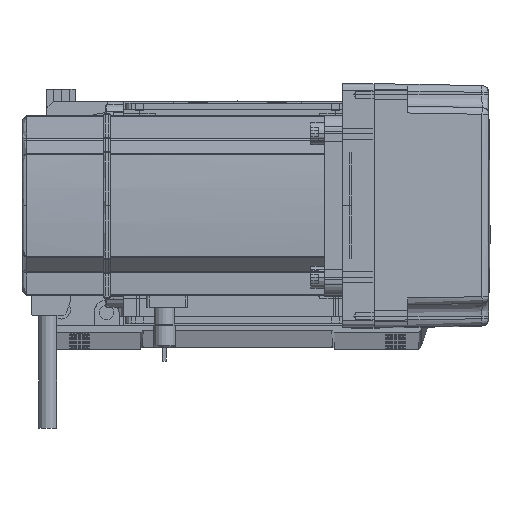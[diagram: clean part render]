
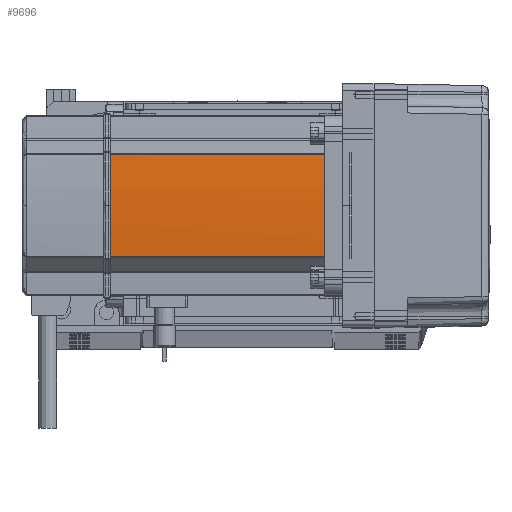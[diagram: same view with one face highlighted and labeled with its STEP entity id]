
A CAD part, top view. The second image highlights one B-rep face of the part: STEP entity #9696.
In plain terms, the highlighted cylindrical face has radius 270 mm (diameter 540 mm), a partial arc.
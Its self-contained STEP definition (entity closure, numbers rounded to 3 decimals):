
#672 = CARTESIAN_POINT ( 'NONE',  ( -39.042, 22.724, 134. ) ) ;
#1835 = CIRCLE ( 'NONE', #8783, 270. ) ;
#2182 = EDGE_CURVE ( 'NONE', #55314, #61873, #11278, .T. ) ;
#5373 = CARTESIAN_POINT ( 'NONE',  ( 230., 0., 39. ) ) ;
#6684 = CIRCLE ( 'NONE', #43707, 270. ) ;
#6867 = CYLINDRICAL_SURFACE ( 'NONE', #22849, 270. ) ;
#7472 = CARTESIAN_POINT ( 'NONE',  ( -39.042, -22.724, 0. ) ) ;
#8783 = AXIS2_PLACEMENT_3D ( 'NONE', #43379, #48844, #53864 ) ;
#9388 = DIRECTION ( 'NONE',  ( 0., 0., -1. ) ) ;
#9696 = ADVANCED_FACE ( 'NONE', ( #28921 ), #6867, .T. ) ;
#11278 = LINE ( 'NONE', #21088, #31686 ) ;
#11650 = CARTESIAN_POINT ( 'NONE',  ( -39.042, 22.724, 39. ) ) ;
#12151 = VECTOR ( 'NONE', #66968, 1000. ) ;
#12718 = ORIENTED_EDGE ( 'NONE', *, *, #38586, .F. ) ;
#18921 = EDGE_CURVE ( 'NONE', #27110, #64386, #50086, .T. ) ;
#19502 = CARTESIAN_POINT ( 'NONE',  ( -40., 0., 134. ) ) ;
#20966 = DIRECTION ( 'NONE',  ( 1., 0., 0. ) ) ;
#21088 = CARTESIAN_POINT ( 'NONE',  ( -39.042, 22.724, 0. ) ) ;
#22849 = AXIS2_PLACEMENT_3D ( 'NONE', #55076, #33406, #65590 ) ;
#25298 = ORIENTED_EDGE ( 'NONE', *, *, #66184, .T. ) ;
#27110 = VERTEX_POINT ( 'NONE', #54314 ) ;
#28921 = FACE_OUTER_BOUND ( 'NONE', #49376, .T. ) ;
#31686 = VECTOR ( 'NONE', #59162, 1000. ) ;
#33406 = DIRECTION ( 'NONE',  ( 0., 0., 1. ) ) ;
#36354 = ORIENTED_EDGE ( 'NONE', *, *, #54246, .T. ) ;
#38586 = EDGE_CURVE ( 'NONE', #65216, #61873, #6684, .T. ) ;
#40731 = CARTESIAN_POINT ( 'NONE',  ( -39.042, -22.724, 39. ) ) ;
#43379 = CARTESIAN_POINT ( 'NONE',  ( 230., 0., 134. ) ) ;
#43707 = AXIS2_PLACEMENT_3D ( 'NONE', #5373, #59127, #69855 ) ;
#44311 = AXIS2_PLACEMENT_3D ( 'NONE', #69320, #9388, #20966 ) ;
#48844 = DIRECTION ( 'NONE',  ( 0., 0., -1. ) ) ;
#49376 = EDGE_LOOP ( 'NONE', ( #65349, #25298, #69699, #12718, #36354 ) ) ;
#50086 = CIRCLE ( 'NONE', #44311, 270. ) ;
#53864 = DIRECTION ( 'NONE',  ( 1., 0., 0. ) ) ;
#54246 = EDGE_CURVE ( 'NONE', #65216, #27110, #66648, .T. ) ;
#54314 = CARTESIAN_POINT ( 'NONE',  ( -39.042, -22.724, 134. ) ) ;
#55076 = CARTESIAN_POINT ( 'NONE',  ( 230., 0., 0. ) ) ;
#55314 = VERTEX_POINT ( 'NONE', #672 ) ;
#59127 = DIRECTION ( 'NONE',  ( 0., 0., -1. ) ) ;
#59162 = DIRECTION ( 'NONE',  ( 0., 0., -1. ) ) ;
#61873 = VERTEX_POINT ( 'NONE', #11650 ) ;
#64386 = VERTEX_POINT ( 'NONE', #19502 ) ;
#65216 = VERTEX_POINT ( 'NONE', #40731 ) ;
#65349 = ORIENTED_EDGE ( 'NONE', *, *, #18921, .T. ) ;
#65590 = DIRECTION ( 'NONE',  ( 1., 0., 0. ) ) ;
#66184 = EDGE_CURVE ( 'NONE', #64386, #55314, #1835, .T. ) ;
#66648 = LINE ( 'NONE', #7472, #12151 ) ;
#66968 = DIRECTION ( 'NONE',  ( 0., 0., 1. ) ) ;
#69320 = CARTESIAN_POINT ( 'NONE',  ( 230., 0., 134. ) ) ;
#69699 = ORIENTED_EDGE ( 'NONE', *, *, #2182, .T. ) ;
#69855 = DIRECTION ( 'NONE',  ( 1., 0., 0. ) ) ;
